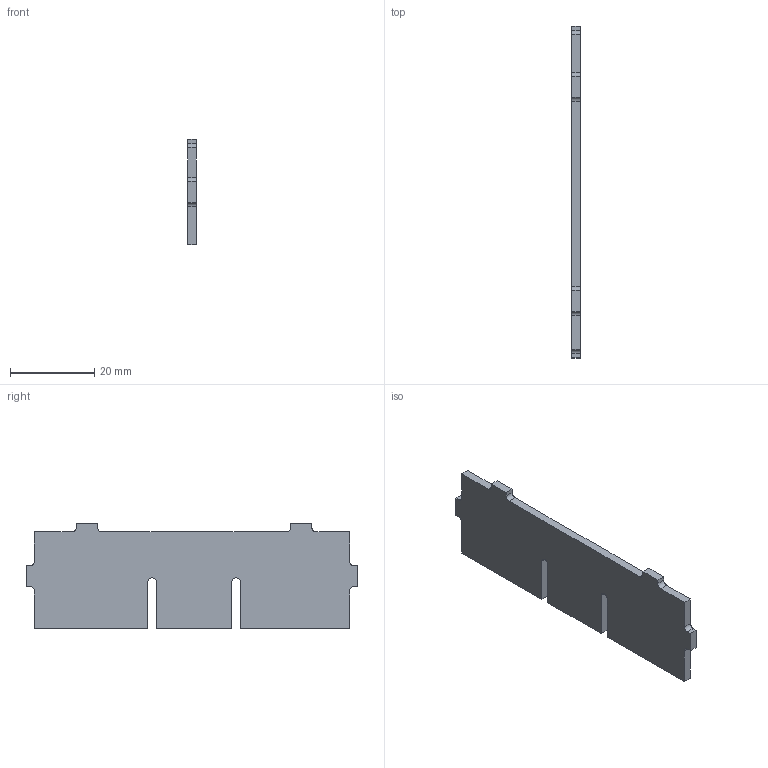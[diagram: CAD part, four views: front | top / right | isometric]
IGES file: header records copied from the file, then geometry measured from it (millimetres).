
Start section: START RECORD GO HERE.
Global section: file name: FR_11001_6 (Frame Throttle).igs; native system: IBM CATIA IGES - CATIA Version 5 Release 19 ; preprocessor: CATIA Version 5 Release 19 ; author: jacqu; organization: ASUS-TUF-JACQUE; date: 20200226.091643; units: millimetre
Bounding box: 2 x 79 x 25.1 mm (x, y, z)
Surface area: 3964.4 mm2 (no closed solid volume)
Topology: 0 solids, 0 shells, 38 faces, 232 edges, 232 vertices
Faces by surface type: plane 28, revolution 10
